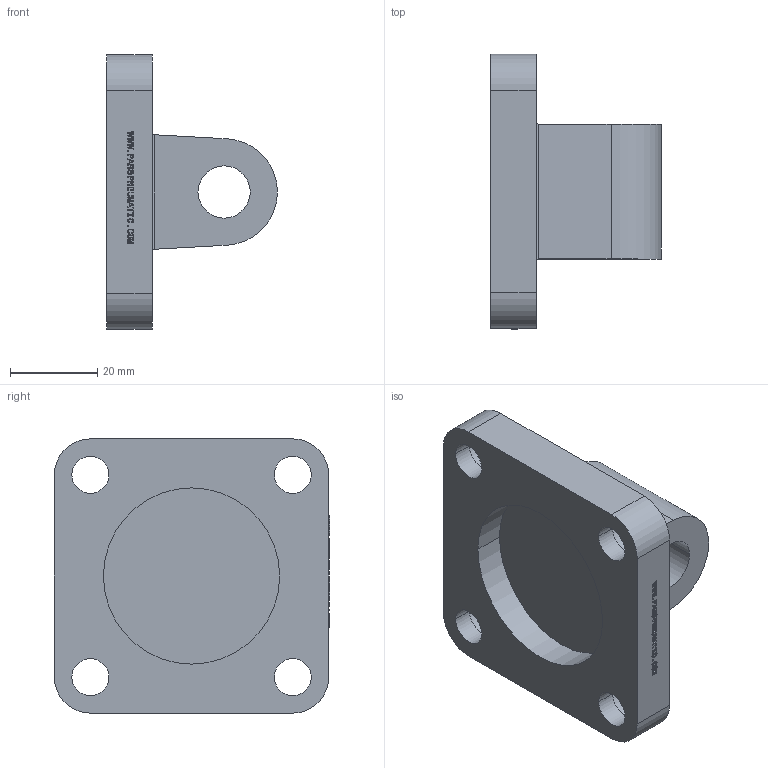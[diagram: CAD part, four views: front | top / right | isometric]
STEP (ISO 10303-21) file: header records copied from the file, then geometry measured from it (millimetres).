
FILE_DESCRIPTION(('CATIA V5 STEP Exchange'),'2;1');
FILE_NAME('D:\stp file for catalog\BAST-CA\CA 50.stp','2018-06-13T05:57:13+00:00',('none'),('none'),'CATIA Version 5-6 Release 2016','CATIA V5 STEP AP203','none');
FILE_SCHEMA(('CONFIG_CONTROL_DESIGN'));
Length unit declared in the file: millimetre
Products named in the file (1): PNC-CA 50-01
Bounding box: 39.25 x 63.2 x 63 mm (x, y, z)
Volume: 44661.2 mm3; surface area: 15877.5 mm2
Topology: 1 solids, 1 shells, 470 faces, 1305 edges, 870 vertices
Faces by surface type: plane 441, cylinder 29
Entity records: 14231 total; most frequent: ORIENTED_EDGE 2610, CARTESIAN_POINT 2567, DIRECTION 2015, EDGE_CURVE 1305, VECTOR 1247, LINE 1247, VERTEX_POINT 870, EDGE_LOOP 513
